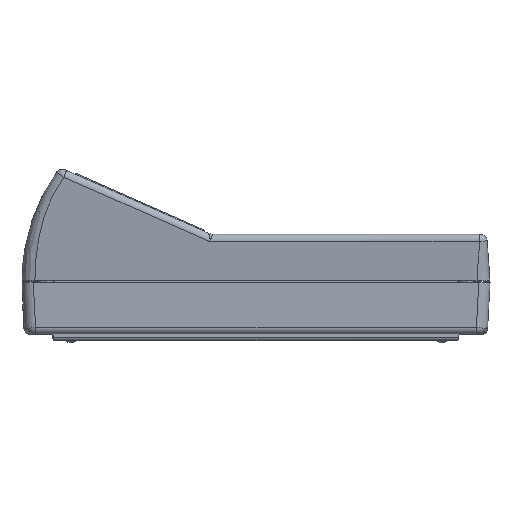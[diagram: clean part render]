
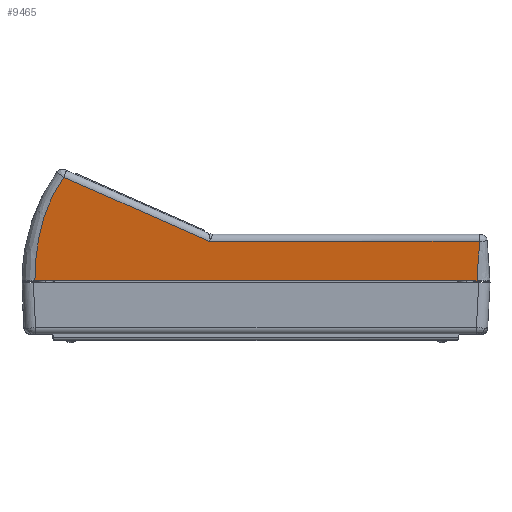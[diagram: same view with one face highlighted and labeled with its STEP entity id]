
A CAD part, top view. The second image highlights one B-rep face of the part: STEP entity #9465.
In plain terms, the highlighted planar face has unit normal (0, -0.122, 0.993).
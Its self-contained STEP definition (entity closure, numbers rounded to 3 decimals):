
#2 = VECTOR ( 'NONE', #6859, 1000. ) ;
#531 = LINE ( 'NONE', #16718, #2 ) ;
#846 = ORIENTED_EDGE ( 'NONE', *, *, #7449, .T. ) ;
#991 = CARTESIAN_POINT ( 'NONE',  ( 69.366, 12.256, 46.805 ) ) ;
#1401 = CARTESIAN_POINT ( 'NONE',  ( 68.708, 0., 45.3 ) ) ;
#1494 = EDGE_CURVE ( 'NONE', #12467, #18443, #531, .T. ) ;
#1505 = ORIENTED_EDGE ( 'NONE', *, *, #19068, .T. ) ;
#1529 = FACE_OUTER_BOUND ( 'NONE', #6762, .T. ) ;
#1649 = CARTESIAN_POINT ( 'NONE',  ( -59.787, 32.257, 49.261 ) ) ;
#3062 = CARTESIAN_POINT ( 'NONE',  ( 69.653, 8.142, 46.3 ) ) ;
#3316 = CARTESIAN_POINT ( 'NONE',  ( -68.661, 13.25, 46.927 ) ) ;
#4701 = CARTESIAN_POINT ( 'NONE',  ( 69.37, 12.192, 46.797 ) ) ;
#4787 = CARTESIAN_POINT ( 'NONE',  ( -14.05, 12.256, 46.805 ) ) ;
#4879 = CARTESIAN_POINT ( 'NONE',  ( -14.472, 12.256, 46.805 ) ) ;
#5147 = VECTOR ( 'NONE', #16274, 1000. ) ;
#6358 = CARTESIAN_POINT ( 'NONE',  ( 69.366, 12.256, 46.805 ) ) ;
#6597 = ORIENTED_EDGE ( 'NONE', *, *, #9265, .T. ) ;
#6762 = EDGE_LOOP ( 'NONE', ( #16573, #846, #17556, #1505, #6597 ) ) ;
#6859 = DIRECTION ( 'NONE',  ( 1., 0., 0. ) ) ;
#6938 = VECTOR ( 'NONE', #11582, 1000. ) ;
#6993 = PLANE ( 'NONE',  #15308 ) ;
#7449 = EDGE_CURVE ( 'NONE', #16857, #12467, #21316, .T. ) ;
#8642 = DIRECTION ( 'NONE',  ( 0., -0.993, -0.122 ) ) ;
#8955 = CARTESIAN_POINT ( 'NONE',  ( -68.748, 0., 45.3 ) ) ;
#9265 = EDGE_CURVE ( 'NONE', #17060, #17291, #18249, .T. ) ;
#9465 = ADVANCED_FACE ( 'NONE', ( #1529 ), #6993, .T. ) ;
#9928 = CARTESIAN_POINT ( 'NONE',  ( -61.859, 33.171, 49.373 ) ) ;
#11460 = CARTESIAN_POINT ( 'NONE',  ( -65.674, 24.002, 48.247 ) ) ;
#11582 = DIRECTION ( 'NONE',  ( -0.914, 0.403, 0.05 ) ) ;
#12467 = VERTEX_POINT ( 'NONE', #8955 ) ;
#13196 = CARTESIAN_POINT ( 'NONE',  ( -59.787, 32.257, 49.261 ) ) ;
#14178 = EDGE_CURVE ( 'NONE', #17291, #16857, #20059, .T. ) ;
#14533 = CARTESIAN_POINT ( 'NONE',  ( 69.372, 12.16, 46.793 ) ) ;
#14787 = CARTESIAN_POINT ( 'NONE',  ( -68.748, 0., 45.3 ) ) ;
#15120 = CARTESIAN_POINT ( 'NONE',  ( -72.75, 0., 45.3 ) ) ;
#15308 = AXIS2_PLACEMENT_3D ( 'NONE', #15120, #18516, #8642 ) ;
#15741 = CARTESIAN_POINT ( 'NONE',  ( 68.708, 0., 45.3 ) ) ;
#16205 = CARTESIAN_POINT ( 'NONE',  ( 69.368, 12.224, 46.801 ) ) ;
#16274 = DIRECTION ( 'NONE',  ( -1., 0., 0. ) ) ;
#16573 = ORIENTED_EDGE ( 'NONE', *, *, #14178, .T. ) ;
#16718 = CARTESIAN_POINT ( 'NONE',  ( -72.75, 0., 45.3 ) ) ;
#16857 = VERTEX_POINT ( 'NONE', #13196 ) ;
#17060 = VERTEX_POINT ( 'NONE', #991 ) ;
#17291 = VERTEX_POINT ( 'NONE', #4879 ) ;
#17556 = ORIENTED_EDGE ( 'NONE', *, *, #1494, .T. ) ;
#17719 = B_SPLINE_CURVE_WITH_KNOTS ( 'NONE', 3,
 ( #1401, #19449, #3062, #14533, #4701, #16205, #6358 ),
 .UNSPECIFIED., .F., .F.,
 ( 4, 3, 4 ),
 ( 0.412, 0.599, 0.6 ),
 .UNSPECIFIED. ) ;
#18249 = LINE ( 'NONE', #4787, #5147 ) ;
#18443 = VERTEX_POINT ( 'NONE', #15741 ) ;
#18516 = DIRECTION ( 'NONE',  ( 0., -0.122, 0.993 ) ) ;
#19068 = EDGE_CURVE ( 'NONE', #18443, #17060, #17719, .T. ) ;
#19449 = CARTESIAN_POINT ( 'NONE',  ( 68.492, 4.023, 45.794 ) ) ;
#20059 = LINE ( 'NONE', #9928, #6938 ) ;
#21316 = B_SPLINE_CURVE_WITH_KNOTS ( 'NONE', 3,
 ( #1649, #11460, #3316, #14787 ),
 .UNSPECIFIED., .F., .F.,
 ( 4, 4 ),
 ( 0., 1. ),
 .UNSPECIFIED. ) ;
